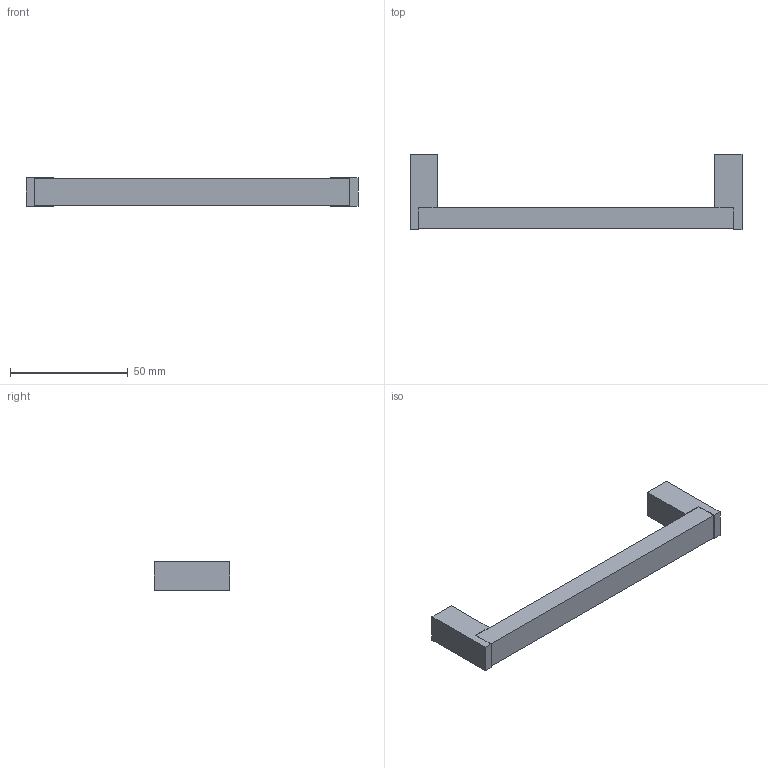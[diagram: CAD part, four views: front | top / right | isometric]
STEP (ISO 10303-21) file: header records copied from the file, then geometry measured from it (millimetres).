
FILE_DESCRIPTION( ( 'STEP AP214' ), '1' );
FILE_NAME( 'C:/Users/kulkarni/Desktop/Apurva/2015/Prodecor_2016/Cadfiles/bermeo/9208074.stp', ' ', ( ' ' ), ( ' ' ), 'PSStep 15.0.47', 'PARTsolutions', ' ' );
FILE_SCHEMA( ( 'AUTOMOTIVE_DESIGN { 1 0 10303 214 1 1 1 1 }' ) );
Length unit declared in the file: millimetre
Products named in the file (1): _
Bounding box: 141 x 32 x 12.15 mm (x, y, z)
Volume: 20543.7 mm3; surface area: 8705.4 mm2
Topology: 1 solids, 1 shells, 26 faces, 62 edges, 40 vertices
Faces by surface type: plane 24, cylinder 2
Full cylindrical faces by diameter (mm): 5 x2
Entity records: 952 total; most frequent: CARTESIAN_POINT 127, ORIENTED_EDGE 120, DIRECTION 118, EDGE_CURVE 60, LINE 56, VECTOR 56, VERTEX_POINT 40, AXIS2_PLACEMENT_3D 31
